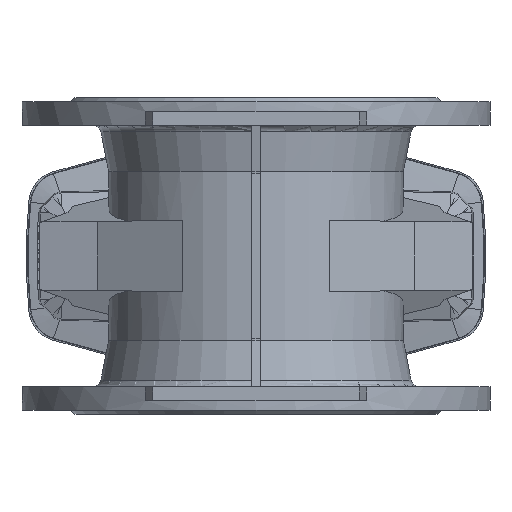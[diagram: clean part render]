
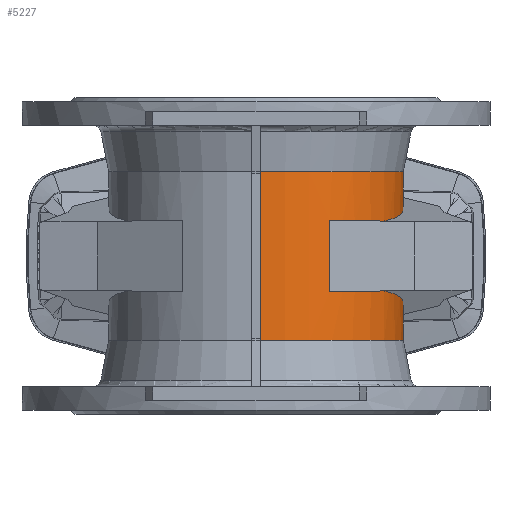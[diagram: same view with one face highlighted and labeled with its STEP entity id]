
A CAD part, front view. The second image highlights one B-rep face of the part: STEP entity #5227.
In plain terms, the highlighted cylindrical face has radius 107 mm (diameter 214 mm), a partial arc.
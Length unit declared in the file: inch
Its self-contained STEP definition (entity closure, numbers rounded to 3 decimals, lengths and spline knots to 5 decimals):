
#2023 = ORIENTED_EDGE ( 'NONE', *, *, #2940, .F. ) ;
#2024 = ORIENTED_EDGE ( 'NONE', *, *, #2943, .F. ) ;
#2025 = ORIENTED_EDGE ( 'NONE', *, *, #2945, .T. ) ;
#2026 = ORIENTED_EDGE ( 'NONE', *, *, #2947, .T. ) ;
#2027 = ORIENTED_EDGE ( 'NONE', *, *, #2950, .T. ) ;
#2028 = ORIENTED_EDGE ( 'NONE', *, *, #2952, .F. ) ;
#2029 = ORIENTED_EDGE ( 'NONE', *, *, #2954, .F. ) ;
#2030 = ORIENTED_EDGE ( 'NONE', *, *, #2957, .F. ) ;
#2031 = ORIENTED_EDGE ( 'NONE', *, *, #2959, .F. ) ;
#2032 = ORIENTED_EDGE ( 'NONE', *, *, #2960, .T. ) ;
#2940 = EDGE_CURVE ( 'NONE', #6971, #13499, #12217, .T. ) ;
#2943 = EDGE_CURVE ( 'NONE', #13451, #6971, #12220, .T. ) ;
#2945 = EDGE_CURVE ( 'NONE', #13451, #13484, #12224, .T. ) ;
#2947 = EDGE_CURVE ( 'NONE', #13484, #6975, #13349, .T. ) ;
#2950 = EDGE_CURVE ( 'NONE', #6975, #13599, #13331, .T. ) ;
#2952 = EDGE_CURVE ( 'NONE', #13585, #13599, #12222, .T. ) ;
#2954 = EDGE_CURVE ( 'NONE', #13518, #13585, #13340, .T. ) ;
#2957 = EDGE_CURVE ( 'NONE', #13434, #13518, #13374, .T. ) ;
#2959 = EDGE_CURVE ( 'NONE', #13458, #13434, #12229, .T. ) ;
#2960 = EDGE_CURVE ( 'NONE', #13458, #13499, #12228, .T. ) ;
#3286 = AXIS2_PLACEMENT_3D ( 'NONE', #6777, #6778, #6779 ) ;
#3287 = AXIS2_PLACEMENT_3D ( 'NONE', #6802, #6803, #6804 ) ;
#4527 = DIRECTION ( 'NONE',  ( -1., 0., 0. ) ) ;
#4534 = DIRECTION ( 'NONE',  ( 0., 0., 1. ) ) ;
#4535 = CARTESIAN_POINT ( 'NONE',  ( 0., 0., 0. ) ) ;
#5110 = CARTESIAN_POINT ( 'NONE',  ( 0.11811, -4.21094, -2.4127 ) ) ;
#5115 = CARTESIAN_POINT ( 'NONE',  ( 3.65625, -2.09232, -0.99917 ) ) ;
#5227 = ADVANCED_FACE ( 'NONE', ( #12831 ), #12835, .T. ) ;
#6759 = CARTESIAN_POINT ( 'NONE',  ( 0.11811, -4.21094, 0. ) ) ;
#6766 = CARTESIAN_POINT ( 'NONE',  ( 0.11811, 4.21094, 0. ) ) ;
#6773 = DIRECTION ( 'NONE',  ( 0., 0., 1. ) ) ;
#6774 = DIRECTION ( 'NONE',  ( 0., 0., 1. ) ) ;
#6775 = CARTESIAN_POINT ( 'NONE',  ( 5.42704, 1.00205, -1.40285 ) ) ;
#6776 = CARTESIAN_POINT ( 'NONE',  ( 3.65625, -2.09232, -0.99917 ) ) ;
#6777 = CARTESIAN_POINT ( 'NONE',  ( 0., 0., -2.4127 ) ) ;
#6778 = DIRECTION ( 'NONE',  ( 0., 0., -1. ) ) ;
#6779 = DIRECTION ( 'NONE',  ( -1., 0., 0. ) ) ;
#6780 = CARTESIAN_POINT ( 'NONE',  ( 3.68193, 4.11098, -1.87054 ) ) ;
#6781 = CARTESIAN_POINT ( 'NONE',  ( 3.28407, -2.74269, -1.00567 ) ) ;
#6782 = CARTESIAN_POINT ( 'NONE',  ( 0.11811, 4.21094, -1.9474 ) ) ;
#6783 = CARTESIAN_POINT ( 'NONE',  ( 3.65625, -2.09232, -0.99917 ) ) ;
#6784 = CARTESIAN_POINT ( 'NONE',  ( 3.28407, -2.74269, 1.00567 ) ) ;
#6785 = CARTESIAN_POINT ( 'NONE',  ( 2.1063, -3.64822, 4.52756 ) ) ;
#6786 = CARTESIAN_POINT ( 'NONE',  ( 2.75523, -3.27355, 1.0149 ) ) ;
#6787 = CARTESIAN_POINT ( 'NONE',  ( 2.75523, -3.27355, -1.0149 ) ) ;
#6788 = CARTESIAN_POINT ( 'NONE',  ( 2.1063, -3.64822, -1.02623 ) ) ;
#6789 = DIRECTION ( 'NONE',  ( 0., 0., -1. ) ) ;
#6790 = CARTESIAN_POINT ( 'NONE',  ( 3.68193, 4.11098, 1.87054 ) ) ;
#6791 = CARTESIAN_POINT ( 'NONE',  ( 3.65625, -2.09232, 0.99917 ) ) ;
#6793 = CARTESIAN_POINT ( 'NONE',  ( 2.1063, -3.64822, 1.02623 ) ) ;
#6794 = CARTESIAN_POINT ( 'NONE',  ( 0.11811, 4.21094, 0. ) ) ;
#6795 = CARTESIAN_POINT ( 'NONE',  ( 0.11811, 4.21094, 1.9474 ) ) ;
#6796 = DIRECTION ( 'NONE',  ( 0., 0., -1. ) ) ;
#6797 = CARTESIAN_POINT ( 'NONE',  ( 5.42704, 1.00205, 1.40285 ) ) ;
#6798 = CARTESIAN_POINT ( 'NONE',  ( 3.65625, -2.09232, 0.99917 ) ) ;
#6802 = CARTESIAN_POINT ( 'NONE',  ( 0., 0., 2.4127 ) ) ;
#6803 = DIRECTION ( 'NONE',  ( 0., 0., -1. ) ) ;
#6804 = DIRECTION ( 'NONE',  ( -1., 0., 0. ) ) ;
#6971 = VERTEX_POINT ( 'NONE', #5110 ) ;
#6975 = VERTEX_POINT ( 'NONE', #5115 ) ;
#8431 = AXIS2_PLACEMENT_3D ( 'NONE', #4535, #4534, #4527 ) ;
#9412 = CARTESIAN_POINT ( 'NONE',  ( 0.11811, 4.21094, 1.9474 ) ) ;
#9429 = CARTESIAN_POINT ( 'NONE',  ( 0.11811, 4.21094, -2.4127 ) ) ;
#9436 = CARTESIAN_POINT ( 'NONE',  ( 0.11811, 4.21094, 2.4127 ) ) ;
#9462 = CARTESIAN_POINT ( 'NONE',  ( 0.11811, 4.21094, -1.9474 ) ) ;
#9477 = CARTESIAN_POINT ( 'NONE',  ( 0.11811, -4.21094, 2.4127 ) ) ;
#9496 = CARTESIAN_POINT ( 'NONE',  ( 3.65625, -2.09232, 0.99917 ) ) ;
#9563 = CARTESIAN_POINT ( 'NONE',  ( 2.1063, -3.64822, 1.02623 ) ) ;
#9577 = CARTESIAN_POINT ( 'NONE',  ( 2.1063, -3.64822, -1.02623 ) ) ;
#10536 = EDGE_LOOP ( 'NONE', ( #2023, #2024, #2025, #2026, #2027, #2028, #2029, #2030, #2031, #2032 ) ) ;
#12217 = LINE ( 'NONE', #6759, #12223 ) ;
#12220 = CIRCLE ( 'NONE', #3286, 4.2126 ) ;
#12222 = LINE ( 'NONE', #6785, #12227 ) ;
#12223 = VECTOR ( 'NONE', #6773, 39.37008 ) ;
#12224 = LINE ( 'NONE', #6766, #12225 ) ;
#12225 = VECTOR ( 'NONE', #6774, 39.37008 ) ;
#12227 = VECTOR ( 'NONE', #6789, 39.37008 ) ;
#12228 = CIRCLE ( 'NONE', #3287, 4.2126 ) ;
#12229 = LINE ( 'NONE', #6794, #12230 ) ;
#12230 = VECTOR ( 'NONE', #6796, 39.37008 ) ;
#12831 = FACE_OUTER_BOUND ( 'NONE', #10536, .T. ) ;
#12835 = CYLINDRICAL_SURFACE ( 'NONE', #8431, 4.2126 ) ;
#13331 =( BOUNDED_CURVE ( )  B_SPLINE_CURVE ( 3, ( #6776, #6781, #6787, #6788 ),
 .UNSPECIFIED., .F., .F. ) 
 B_SPLINE_CURVE_WITH_KNOTS ( ( 4, 4 ),
 ( 3.66136, 4.18879 ),
 .UNSPECIFIED. ) 
 CURVE ( )  GEOMETRIC_REPRESENTATION_ITEM ( )  RATIONAL_B_SPLINE_CURVE ( ( 1., 0.977, 0.977, 1. ) ) 
 REPRESENTATION_ITEM ( '' )  );
#13340 =( BOUNDED_CURVE ( )  B_SPLINE_CURVE ( 3, ( #6791, #6784, #6786, #6793 ),
 .UNSPECIFIED., .F., .F. ) 
 B_SPLINE_CURVE_WITH_KNOTS ( ( 4, 4 ),
 ( 3.66136, 4.18879 ),
 .UNSPECIFIED. ) 
 CURVE ( )  GEOMETRIC_REPRESENTATION_ITEM ( )  RATIONAL_B_SPLINE_CURVE ( ( 1., 0.977, 0.977, 1. ) ) 
 REPRESENTATION_ITEM ( '' )  );
#13349 =( BOUNDED_CURVE ( )  B_SPLINE_CURVE ( 3, ( #6782, #6780, #6775, #6783 ),
 .UNSPECIFIED., .F., .F. ) 
 B_SPLINE_CURVE_WITH_KNOTS ( ( 4, 4 ),
 ( 0.15281, 2.21534 ),
 .UNSPECIFIED. ) 
 CURVE ( )  GEOMETRIC_REPRESENTATION_ITEM ( )  RATIONAL_B_SPLINE_CURVE ( ( 1., 0.676, 0.676, 1. ) ) 
 REPRESENTATION_ITEM ( '' )  );
#13374 =( BOUNDED_CURVE ( )  B_SPLINE_CURVE ( 3, ( #6795, #6790, #6797, #6798 ),
 .UNSPECIFIED., .F., .F. ) 
 B_SPLINE_CURVE_WITH_KNOTS ( ( 4, 4 ),
 ( 0.15281, 2.21534 ),
 .UNSPECIFIED. ) 
 CURVE ( )  GEOMETRIC_REPRESENTATION_ITEM ( )  RATIONAL_B_SPLINE_CURVE ( ( 1., 0.676, 0.676, 1. ) ) 
 REPRESENTATION_ITEM ( '' )  );
#13434 = VERTEX_POINT ( 'NONE', #9412 ) ;
#13451 = VERTEX_POINT ( 'NONE', #9429 ) ;
#13458 = VERTEX_POINT ( 'NONE', #9436 ) ;
#13484 = VERTEX_POINT ( 'NONE', #9462 ) ;
#13499 = VERTEX_POINT ( 'NONE', #9477 ) ;
#13518 = VERTEX_POINT ( 'NONE', #9496 ) ;
#13585 = VERTEX_POINT ( 'NONE', #9563 ) ;
#13599 = VERTEX_POINT ( 'NONE', #9577 ) ;
